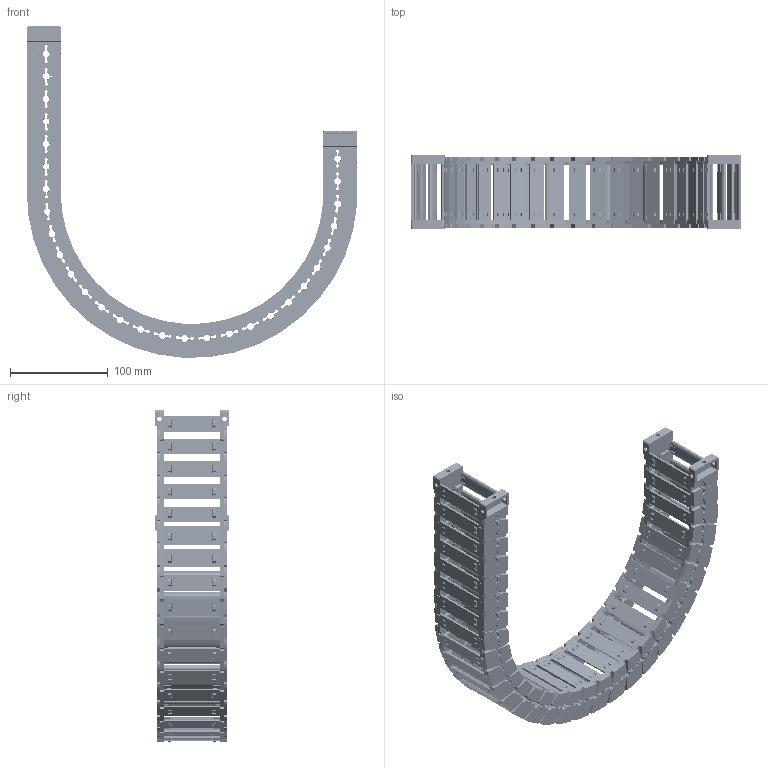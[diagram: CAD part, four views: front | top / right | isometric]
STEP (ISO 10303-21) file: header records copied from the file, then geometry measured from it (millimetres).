
FILE_DESCRIPTION((''),'2;1');
FILE_NAME('JY-28X57-R150_ASM','2026-03-25T20:50:58',('admin'),(''),'CREO PARAMETRIC BY PTC INC, 2021023','CREO PARAMETRIC BY PTC INC, 2021023','');
FILE_SCHEMA(('CONFIG_CONTROL_DESIGN'));
Length unit declared in the file: millimetre
Products named in the file (11): 28XL-L; 25-35XL-YP; 28XL-R; ASM0001_ASM; 28-LTT-A-L; 28-LTT-A-R; 28XL-LTT-A_ASM; 28-LTT-B-L; 28-LTT-B-R; 28XL-LTT-B_ASM; JY-28X57-R150_ASM
Assembly tree (42 placements, depth 3):
  JY-28X57-R150_ASM
    ASM0001_ASM  x28
      28XL-L
      25-35XL-YP
      28XL-R
    28XL-LTT-A_ASM
      28-LTT-A-L
      25-35XL-YP  x2
      28-LTT-A-R
    28XL-LTT-B_ASM
      28-LTT-B-L
      25-35XL-YP  x2
      28-LTT-B-R
Bounding box: 337.23 x 75.5 x 338.94 mm (x, y, z)
Volume: 476213.2 mm3; surface area: 344620.5 mm2
Topology: 120 solids, 120 shells, 9750 faces, 28988 edges, 19358 vertices
Faces by surface type: plane 6392, cone 1766, cylinder 1394, bspline 198
Entity records: 29175 total; most frequent: CARTESIAN_POINT 9500, ORIENTED_EDGE 4352, DIRECTION 3675, EDGE_CURVE 2176, VERTEX_POINT 1454, VECTOR 1365, LINE 1365, AXIS2_PLACEMENT_3D 1155
